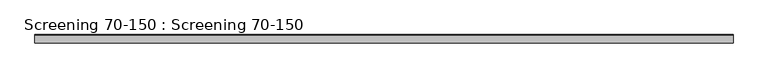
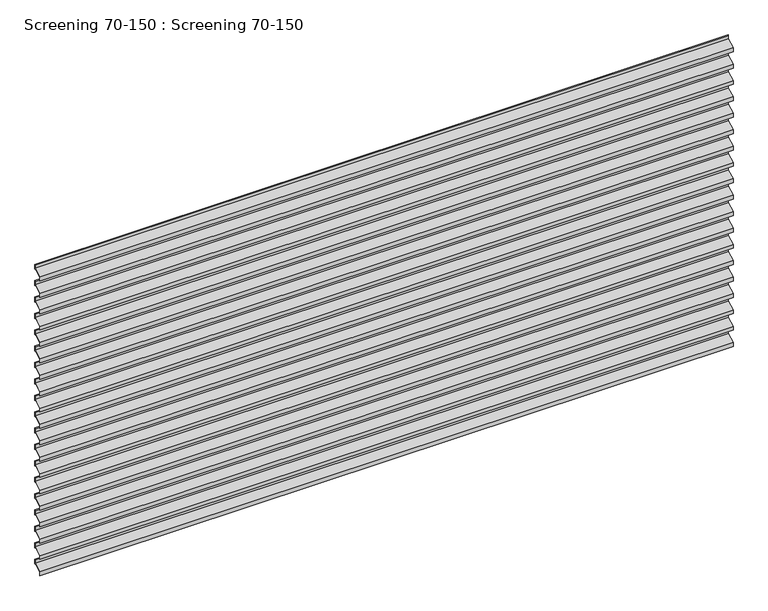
"""IFC4 building model written with IfcOpenShell, lengths in millimetres: plate geometry, Screening 70-150 : Screening 70-150."""

from ifc_helpers import new_model, si_unit, point, frame, frame_2d, origin, place, context, project, spatial, polyline, circle_curve, trimmed, segment, composite_curve, outline, extrude, source, transform, mapped, element, save


def screening_70_150_screening_70_150_8df26188(model_context):
    return source(origin(), model_context, "Body", "SweptSolid", [
        extrude(outline(composite_curve([segment(polyline([(-73.0, 2712.1), (-73.0, 2747.5291809)]), True, "CONTINUOUS"), segment(trimmed(circle_curve(frame_2d((-534.237547, 3626.0902569)), 992.2749816), [point((-73.0, 2747.5291809))], [point((-4.0, 2787.3663555))], True, "CARTESIAN"), True, "CONTINUOUS"), segment(polyline([(-4.0, 2787.3663555), (-4.0, 2818.009614), (0.0, 2821.1725089), (0.0, 2776.6482493), (-17.4871094, 2776.6482493)]), True, "CONTINUOUS"), segment(trimmed(circle_curve(frame_2d((-534.237547, 3626.0902569)), 994.2749816), [point((-17.4871094, 2776.6482493))], [point((-71.0, 2746.3211315))], False, "CARTESIAN"), True, "CONTINUOUS"), segment(polyline([(-71.0, 2746.3211315), (-71.0, 2712.1), (-73.0, 2712.1)]), True, "CONTINUOUS")], self_intersect=False)), frame((-3000.0, 0.0, 0.0), z_axis=(1.0, 0.0, 0.0), x_axis=(0.0, 1.0, 0.0)), (0.0, 0.0, 1.0), 6000.0),
        extrude(outline(composite_curve([segment(polyline([(-73.0, 2562.1), (-73.0, 2597.5291809)]), True, "CONTINUOUS"), segment(trimmed(circle_curve(frame_2d((-534.237547, 3476.0902569)), 992.2749816), [point((-73.0, 2597.5291809))], [point((-4.0, 2637.3663555))], True, "CARTESIAN"), True, "CONTINUOUS"), segment(polyline([(-4.0, 2637.3663555), (-4.0, 2668.009614), (0.0, 2671.1725089), (0.0, 2626.6482493), (-17.4871094, 2626.6482493)]), True, "CONTINUOUS"), segment(trimmed(circle_curve(frame_2d((-534.237547, 3476.0902569)), 994.2749816), [point((-17.4871094, 2626.6482493))], [point((-71.0, 2596.3211315))], False, "CARTESIAN"), True, "CONTINUOUS"), segment(polyline([(-71.0, 2596.3211315), (-71.0, 2562.1), (-73.0, 2562.1)]), True, "CONTINUOUS")], self_intersect=False)), frame((-3000.0, 0.0, 0.0), z_axis=(1.0, 0.0, 0.0), x_axis=(0.0, 1.0, 0.0)), (0.0, 0.0, 1.0), 6000.0),
        extrude(outline(composite_curve([segment(polyline([(-73.0, 2412.1), (-73.0, 2447.5291809)]), True, "CONTINUOUS"), segment(trimmed(circle_curve(frame_2d((-534.237547, 3326.0902569)), 992.2749816), [point((-73.0, 2447.5291809))], [point((-4.0, 2487.3663555))], True, "CARTESIAN"), True, "CONTINUOUS"), segment(polyline([(-4.0, 2487.3663555), (-4.0, 2518.009614), (0.0, 2521.1725089), (0.0, 2476.6482493), (-17.4871094, 2476.6482493)]), True, "CONTINUOUS"), segment(trimmed(circle_curve(frame_2d((-534.237547, 3326.0902569)), 994.2749816), [point((-17.4871094, 2476.6482493))], [point((-71.0, 2446.3211315))], False, "CARTESIAN"), True, "CONTINUOUS"), segment(polyline([(-71.0, 2446.3211315), (-71.0, 2412.1), (-73.0, 2412.1)]), True, "CONTINUOUS")], self_intersect=False)), frame((-3000.0, 0.0, 0.0), z_axis=(1.0, 0.0, 0.0), x_axis=(0.0, 1.0, 0.0)), (0.0, 0.0, 1.0), 6000.0),
        extrude(outline(composite_curve([segment(polyline([(-73.0, 2262.1), (-73.0, 2297.5291809)]), True, "CONTINUOUS"), segment(trimmed(circle_curve(frame_2d((-534.237547, 3176.0902569)), 992.2749816), [point((-73.0, 2297.5291809))], [point((-4.0, 2337.3663555))], True, "CARTESIAN"), True, "CONTINUOUS"), segment(polyline([(-4.0, 2337.3663555), (-4.0, 2368.009614), (0.0, 2371.1725089), (0.0, 2326.6482493), (-17.4871094, 2326.6482493)]), True, "CONTINUOUS"), segment(trimmed(circle_curve(frame_2d((-534.237547, 3176.0902569)), 994.2749816), [point((-17.4871094, 2326.6482493))], [point((-71.0, 2296.3211315))], False, "CARTESIAN"), True, "CONTINUOUS"), segment(polyline([(-71.0, 2296.3211315), (-71.0, 2262.1), (-73.0, 2262.1)]), True, "CONTINUOUS")], self_intersect=False)), frame((-3000.0, 0.0, 0.0), z_axis=(1.0, 0.0, 0.0), x_axis=(0.0, 1.0, 0.0)), (0.0, 0.0, 1.0), 6000.0),
        extrude(outline(composite_curve([segment(polyline([(-73.0, 2112.1), (-73.0, 2147.5291809)]), True, "CONTINUOUS"), segment(trimmed(circle_curve(frame_2d((-534.237547, 3026.0902569)), 992.2749816), [point((-73.0, 2147.5291809))], [point((-4.0, 2187.3663555))], True, "CARTESIAN"), True, "CONTINUOUS"), segment(polyline([(-4.0, 2187.3663555), (-4.0, 2218.009614), (0.0, 2221.1725089), (0.0, 2176.6482493), (-17.4871094, 2176.6482493)]), True, "CONTINUOUS"), segment(trimmed(circle_curve(frame_2d((-534.237547, 3026.0902569)), 994.2749816), [point((-17.4871094, 2176.6482493))], [point((-71.0, 2146.3211315))], False, "CARTESIAN"), True, "CONTINUOUS"), segment(polyline([(-71.0, 2146.3211315), (-71.0, 2112.1), (-73.0, 2112.1)]), True, "CONTINUOUS")], self_intersect=False)), frame((-3000.0, 0.0, 0.0), z_axis=(1.0, 0.0, 0.0), x_axis=(0.0, 1.0, 0.0)), (0.0, 0.0, 1.0), 6000.0),
        extrude(outline(composite_curve([segment(polyline([(-73.0, 1962.1), (-73.0, 1997.5291809)]), True, "CONTINUOUS"), segment(trimmed(circle_curve(frame_2d((-534.237547, 2876.0902569)), 992.2749816), [point((-73.0, 1997.5291809))], [point((-4.0, 2037.3663555))], True, "CARTESIAN"), True, "CONTINUOUS"), segment(polyline([(-4.0, 2037.3663555), (-4.0, 2068.009614), (0.0, 2071.1725089), (0.0, 2026.6482493), (-17.4871094, 2026.6482493)]), True, "CONTINUOUS"), segment(trimmed(circle_curve(frame_2d((-534.237547, 2876.0902569)), 994.2749816), [point((-17.4871094, 2026.6482493))], [point((-71.0, 1996.3211315))], False, "CARTESIAN"), True, "CONTINUOUS"), segment(polyline([(-71.0, 1996.3211315), (-71.0, 1962.1), (-73.0, 1962.1)]), True, "CONTINUOUS")], self_intersect=False)), frame((-3000.0, 0.0, 0.0), z_axis=(1.0, 0.0, 0.0), x_axis=(0.0, 1.0, 0.0)), (0.0, 0.0, 1.0), 6000.0),
        extrude(outline(composite_curve([segment(polyline([(-73.0, 1812.1), (-73.0, 1847.5291809)]), True, "CONTINUOUS"), segment(trimmed(circle_curve(frame_2d((-534.237547, 2726.0902569)), 992.2749816), [point((-73.0, 1847.5291809))], [point((-4.0, 1887.3663555))], True, "CARTESIAN"), True, "CONTINUOUS"), segment(polyline([(-4.0, 1887.3663555), (-4.0, 1918.009614), (0.0, 1921.1725089), (0.0, 1876.6482493), (-17.4871094, 1876.6482493)]), True, "CONTINUOUS"), segment(trimmed(circle_curve(frame_2d((-534.237547, 2726.0902569)), 994.2749816), [point((-17.4871094, 1876.6482493))], [point((-71.0, 1846.3211315))], False, "CARTESIAN"), True, "CONTINUOUS"), segment(polyline([(-71.0, 1846.3211315), (-71.0, 1812.1), (-73.0, 1812.1)]), True, "CONTINUOUS")], self_intersect=False)), frame((-3000.0, 0.0, 0.0), z_axis=(1.0, 0.0, 0.0), x_axis=(0.0, 1.0, 0.0)), (0.0, 0.0, 1.0), 6000.0),
        extrude(outline(composite_curve([segment(polyline([(-73.0, 1662.1), (-73.0, 1697.5291809)]), True, "CONTINUOUS"), segment(trimmed(circle_curve(frame_2d((-534.237547, 2576.0902569)), 992.2749816), [point((-73.0, 1697.5291809))], [point((-4.0, 1737.3663555))], True, "CARTESIAN"), True, "CONTINUOUS"), segment(polyline([(-4.0, 1737.3663555), (-4.0, 1768.009614), (0.0, 1771.1725089), (0.0, 1726.6482493), (-17.4871094, 1726.6482493)]), True, "CONTINUOUS"), segment(trimmed(circle_curve(frame_2d((-534.237547, 2576.0902569)), 994.2749816), [point((-17.4871094, 1726.6482493))], [point((-71.0, 1696.3211315))], False, "CARTESIAN"), True, "CONTINUOUS"), segment(polyline([(-71.0, 1696.3211315), (-71.0, 1662.1), (-73.0, 1662.1)]), True, "CONTINUOUS")], self_intersect=False)), frame((-3000.0, 0.0, 0.0), z_axis=(1.0, 0.0, 0.0), x_axis=(0.0, 1.0, 0.0)), (0.0, 0.0, 1.0), 6000.0),
        extrude(outline(composite_curve([segment(polyline([(-73.0, 1512.1), (-73.0, 1547.5291809)]), True, "CONTINUOUS"), segment(trimmed(circle_curve(frame_2d((-534.237547, 2426.0902569)), 992.2749816), [point((-73.0, 1547.5291809))], [point((-4.0, 1587.3663555))], True, "CARTESIAN"), True, "CONTINUOUS"), segment(polyline([(-4.0, 1587.3663555), (-4.0, 1618.009614), (0.0, 1621.1725089), (0.0, 1576.6482493), (-17.4871094, 1576.6482493)]), True, "CONTINUOUS"), segment(trimmed(circle_curve(frame_2d((-534.237547, 2426.0902569)), 994.2749816), [point((-17.4871094, 1576.6482493))], [point((-71.0, 1546.3211315))], False, "CARTESIAN"), True, "CONTINUOUS"), segment(polyline([(-71.0, 1546.3211315), (-71.0, 1512.1), (-73.0, 1512.1)]), True, "CONTINUOUS")], self_intersect=False)), frame((-3000.0, 0.0, 0.0), z_axis=(1.0, 0.0, 0.0), x_axis=(0.0, 1.0, 0.0)), (0.0, 0.0, 1.0), 6000.0),
        extrude(outline(composite_curve([segment(polyline([(-73.0, 1362.1), (-73.0, 1397.5291809)]), True, "CONTINUOUS"), segment(trimmed(circle_curve(frame_2d((-534.237547, 2276.0902569)), 992.2749816), [point((-73.0, 1397.5291809))], [point((-4.0, 1437.3663555))], True, "CARTESIAN"), True, "CONTINUOUS"), segment(polyline([(-4.0, 1437.3663555), (-4.0, 1468.009614), (0.0, 1471.1725089), (0.0, 1426.6482493), (-17.4871094, 1426.6482493)]), True, "CONTINUOUS"), segment(trimmed(circle_curve(frame_2d((-534.237547, 2276.0902569)), 994.2749816), [point((-17.4871094, 1426.6482493))], [point((-71.0, 1396.3211315))], False, "CARTESIAN"), True, "CONTINUOUS"), segment(polyline([(-71.0, 1396.3211315), (-71.0, 1362.1), (-73.0, 1362.1)]), True, "CONTINUOUS")], self_intersect=False)), frame((-3000.0, 0.0, 0.0), z_axis=(1.0, 0.0, 0.0), x_axis=(0.0, 1.0, 0.0)), (0.0, 0.0, 1.0), 6000.0),
        extrude(outline(composite_curve([segment(polyline([(-73.0, 1212.1), (-73.0, 1247.5291809)]), True, "CONTINUOUS"), segment(trimmed(circle_curve(frame_2d((-534.237547, 2126.0902569)), 992.2749816), [point((-73.0, 1247.5291809))], [point((-4.0, 1287.3663555))], True, "CARTESIAN"), True, "CONTINUOUS"), segment(polyline([(-4.0, 1287.3663555), (-4.0, 1318.009614), (0.0, 1321.1725089), (0.0, 1276.6482493), (-17.4871094, 1276.6482493)]), True, "CONTINUOUS"), segment(trimmed(circle_curve(frame_2d((-534.237547, 2126.0902569)), 994.2749816), [point((-17.4871094, 1276.6482493))], [point((-71.0, 1246.3211315))], False, "CARTESIAN"), True, "CONTINUOUS"), segment(polyline([(-71.0, 1246.3211315), (-71.0, 1212.1), (-73.0, 1212.1)]), True, "CONTINUOUS")], self_intersect=False)), frame((-3000.0, 0.0, 0.0), z_axis=(1.0, 0.0, 0.0), x_axis=(0.0, 1.0, 0.0)), (0.0, 0.0, 1.0), 6000.0),
        extrude(outline(composite_curve([segment(polyline([(-73.0, 1062.1), (-73.0, 1097.5291809)]), True, "CONTINUOUS"), segment(trimmed(circle_curve(frame_2d((-534.237547, 1976.0902569)), 992.2749816), [point((-73.0, 1097.5291809))], [point((-4.0, 1137.3663555))], True, "CARTESIAN"), True, "CONTINUOUS"), segment(polyline([(-4.0, 1137.3663555), (-4.0, 1168.009614), (0.0, 1171.1725089), (0.0, 1126.6482493), (-17.4871094, 1126.6482493)]), True, "CONTINUOUS"), segment(trimmed(circle_curve(frame_2d((-534.237547, 1976.0902569)), 994.2749816), [point((-17.4871094, 1126.6482493))], [point((-71.0, 1096.3211315))], False, "CARTESIAN"), True, "CONTINUOUS"), segment(polyline([(-71.0, 1096.3211315), (-71.0, 1062.1), (-73.0, 1062.1)]), True, "CONTINUOUS")], self_intersect=False)), frame((-3000.0, 0.0, 0.0), z_axis=(1.0, 0.0, 0.0), x_axis=(0.0, 1.0, 0.0)), (0.0, 0.0, 1.0), 6000.0),
        extrude(outline(composite_curve([segment(polyline([(-73.0, 912.1), (-73.0, 947.5291809)]), True, "CONTINUOUS"), segment(trimmed(circle_curve(frame_2d((-534.237547, 1826.0902569)), 992.2749816), [point((-73.0, 947.5291809))], [point((-4.0, 987.3663555))], True, "CARTESIAN"), True, "CONTINUOUS"), segment(polyline([(-4.0, 987.3663555), (-4.0, 1018.009614), (0.0, 1021.1725089), (0.0, 976.6482493), (-17.4871094, 976.6482493)]), True, "CONTINUOUS"), segment(trimmed(circle_curve(frame_2d((-534.237547, 1826.0902569)), 994.2749816), [point((-17.4871094, 976.6482493))], [point((-71.0, 946.3211315))], False, "CARTESIAN"), True, "CONTINUOUS"), segment(polyline([(-71.0, 946.3211315), (-71.0, 912.1), (-73.0, 912.1)]), True, "CONTINUOUS")], self_intersect=False)), frame((-3000.0, 0.0, 0.0), z_axis=(1.0, 0.0, 0.0), x_axis=(0.0, 1.0, 0.0)), (0.0, 0.0, 1.0), 6000.0),
        extrude(outline(composite_curve([segment(polyline([(-73.0, 762.1), (-73.0, 797.5291809)]), True, "CONTINUOUS"), segment(trimmed(circle_curve(frame_2d((-534.237547, 1676.0902569)), 992.2749816), [point((-73.0, 797.5291809))], [point((-4.0, 837.3663555))], True, "CARTESIAN"), True, "CONTINUOUS"), segment(polyline([(-4.0, 837.3663555), (-4.0, 868.009614), (0.0, 871.1725089), (0.0, 826.6482493), (-17.4871094, 826.6482493)]), True, "CONTINUOUS"), segment(trimmed(circle_curve(frame_2d((-534.237547, 1676.0902569)), 994.2749816), [point((-17.4871094, 826.6482493))], [point((-71.0, 796.3211315))], False, "CARTESIAN"), True, "CONTINUOUS"), segment(polyline([(-71.0, 796.3211315), (-71.0, 762.1), (-73.0, 762.1)]), True, "CONTINUOUS")], self_intersect=False)), frame((-3000.0, 0.0, 0.0), z_axis=(1.0, 0.0, 0.0), x_axis=(0.0, 1.0, 0.0)), (0.0, 0.0, 1.0), 6000.0),
        extrude(outline(composite_curve([segment(polyline([(-73.0, 612.1), (-73.0, 647.5291809)]), True, "CONTINUOUS"), segment(trimmed(circle_curve(frame_2d((-534.237547, 1526.0902569)), 992.2749816), [point((-73.0, 647.5291809))], [point((-4.0, 687.3663555))], True, "CARTESIAN"), True, "CONTINUOUS"), segment(polyline([(-4.0, 687.3663555), (-4.0, 718.009614), (0.0, 721.1725089), (0.0, 676.6482493), (-17.4871094, 676.6482493)]), True, "CONTINUOUS"), segment(trimmed(circle_curve(frame_2d((-534.237547, 1526.0902569)), 994.2749816), [point((-17.4871094, 676.6482493))], [point((-71.0, 646.3211315))], False, "CARTESIAN"), True, "CONTINUOUS"), segment(polyline([(-71.0, 646.3211315), (-71.0, 612.1), (-73.0, 612.1)]), True, "CONTINUOUS")], self_intersect=False)), frame((-3000.0, 0.0, 0.0), z_axis=(1.0, 0.0, 0.0), x_axis=(0.0, 1.0, 0.0)), (0.0, 0.0, 1.0), 6000.0),
        extrude(outline(composite_curve([segment(polyline([(-73.0, 462.1), (-73.0, 497.5291809)]), True, "CONTINUOUS"), segment(trimmed(circle_curve(frame_2d((-534.237547, 1376.0902569)), 992.2749816), [point((-73.0, 497.5291809))], [point((-4.0, 537.3663555))], True, "CARTESIAN"), True, "CONTINUOUS"), segment(polyline([(-4.0, 537.3663555), (-4.0, 568.009614), (0.0, 571.1725089), (0.0, 526.6482493), (-17.4871094, 526.6482493)]), True, "CONTINUOUS"), segment(trimmed(circle_curve(frame_2d((-534.237547, 1376.0902569)), 994.2749816), [point((-17.4871094, 526.6482493))], [point((-71.0, 496.3211315))], False, "CARTESIAN"), True, "CONTINUOUS"), segment(polyline([(-71.0, 496.3211315), (-71.0, 462.1), (-73.0, 462.1)]), True, "CONTINUOUS")], self_intersect=False)), frame((-3000.0, 0.0, 0.0), z_axis=(1.0, 0.0, 0.0), x_axis=(0.0, 1.0, 0.0)), (0.0, 0.0, 1.0), 6000.0),
        extrude(outline(composite_curve([segment(polyline([(-73.0, 312.1), (-73.0, 347.5291809)]), True, "CONTINUOUS"), segment(trimmed(circle_curve(frame_2d((-534.237547, 1226.0902569)), 992.2749816), [point((-73.0, 347.5291809))], [point((-4.0, 387.3663555))], True, "CARTESIAN"), True, "CONTINUOUS"), segment(polyline([(-4.0, 387.3663555), (-4.0, 418.009614), (0.0, 421.1725089), (0.0, 376.6482493), (-17.4871094, 376.6482493)]), True, "CONTINUOUS"), segment(trimmed(circle_curve(frame_2d((-534.237547, 1226.0902569)), 994.2749816), [point((-17.4871094, 376.6482493))], [point((-71.0, 346.3211315))], False, "CARTESIAN"), True, "CONTINUOUS"), segment(polyline([(-71.0, 346.3211315), (-71.0, 312.1), (-73.0, 312.1)]), True, "CONTINUOUS")], self_intersect=False)), frame((-3000.0, 0.0, 0.0), z_axis=(1.0, 0.0, 0.0), x_axis=(0.0, 1.0, 0.0)), (0.0, 0.0, 1.0), 6000.0),
        extrude(outline(composite_curve([segment(polyline([(-73.0, 162.1), (-73.0, 197.5291809)]), True, "CONTINUOUS"), segment(trimmed(circle_curve(frame_2d((-534.237547, 1076.0902569)), 992.2749816), [point((-73.0, 197.5291809))], [point((-4.0, 237.3663555))], True, "CARTESIAN"), True, "CONTINUOUS"), segment(polyline([(-4.0, 237.3663555), (-4.0, 268.009614), (0.0, 271.1725089), (0.0, 226.6482493), (-17.4871094, 226.6482493)]), True, "CONTINUOUS"), segment(trimmed(circle_curve(frame_2d((-534.237547, 1076.0902569)), 994.2749816), [point((-17.4871094, 226.6482493))], [point((-71.0, 196.3211315))], False, "CARTESIAN"), True, "CONTINUOUS"), segment(polyline([(-71.0, 196.3211315), (-71.0, 162.1), (-73.0, 162.1)]), True, "CONTINUOUS")], self_intersect=False)), frame((-3000.0, 0.0, 0.0), z_axis=(1.0, 0.0, 0.0), x_axis=(0.0, 1.0, 0.0)), (0.0, 0.0, 1.0), 6000.0),
        extrude(outline(composite_curve([segment(polyline([(-73.0, 12.1), (-73.0, 47.5291809)]), True, "CONTINUOUS"), segment(trimmed(circle_curve(frame_2d((-534.237547, 926.0902569)), 992.2749816), [point((-73.0, 47.5291809))], [point((-4.0, 87.3663555))], True, "CARTESIAN"), True, "CONTINUOUS"), segment(polyline([(-4.0, 87.3663555), (-4.0, 118.009614), (0.0, 121.1725089), (0.0, 76.6482493), (-17.4871094, 76.6482493)]), True, "CONTINUOUS"), segment(trimmed(circle_curve(frame_2d((-534.237547, 926.0902569)), 994.2749816), [point((-17.4871094, 76.6482493))], [point((-71.0, 46.3211315))], False, "CARTESIAN"), True, "CONTINUOUS"), segment(polyline([(-71.0, 46.3211315), (-71.0, 12.1), (-73.0, 12.1)]), True, "CONTINUOUS")], self_intersect=False)), frame((-3000.0, 0.0, 0.0), z_axis=(1.0, 0.0, 0.0), x_axis=(0.0, 1.0, 0.0)), (0.0, 0.0, 1.0), 6000.0),
    ])


if __name__ == "__main__":
    model = new_model("IFC4")
    model_context = context("Model", 3, world=origin())
    ifc_project = project(units=[si_unit("LENGTHUNIT", "METRE", prefix="MILLI")], contexts=[model_context])
    site = spatial("IfcSite", under=ifc_project)
    building = spatial("IfcBuilding", under=site)
    placement = place(None, origin())
    screening_70_150_screening_70_150_shape = screening_70_150_screening_70_150_8df26188(model_context)
    element("IfcPlate", 1, ObjectType="Screening 70-150 : Screening 70-150", at=placement, inside=building, context=model_context, shape_type="MappedRepresentation", body=[
        mapped(screening_70_150_screening_70_150_shape, transform((0.0, 0.0, 0.0), x_axis=(1.0, 0.0, 0.0), y_axis=(0.0, 1.0, 0.0), z_axis=(0.0, 0.0, 1.0))),
    ])
    save(model, "model.ifc")
